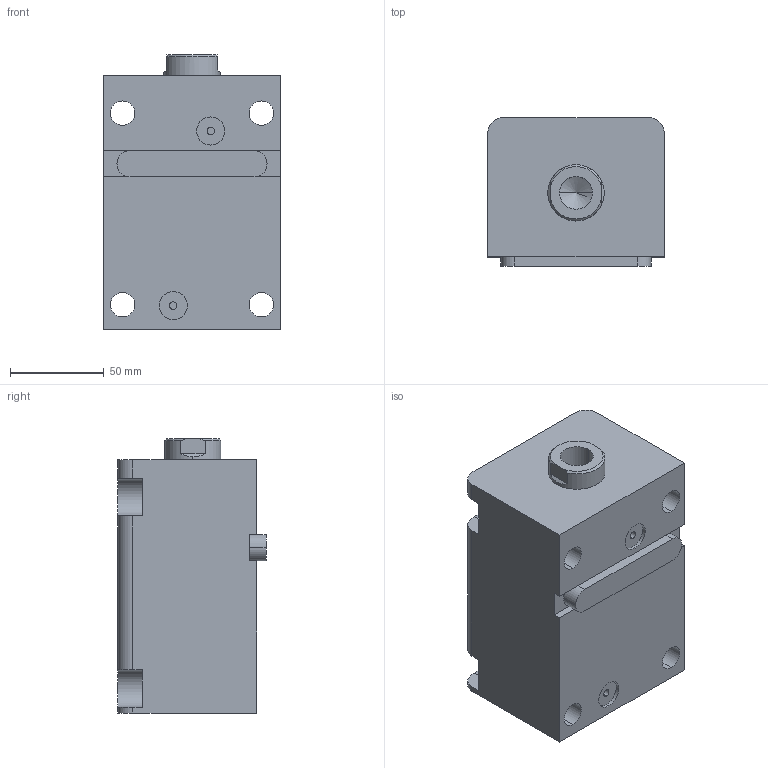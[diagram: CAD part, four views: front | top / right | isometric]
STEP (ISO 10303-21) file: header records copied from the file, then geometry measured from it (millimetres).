
FILE_DESCRIPTION (( 'STEP AP203' ), '1' );
FILE_NAME ('HTB-LAM50-75N.STEP', '2023-03-20T01:09:43', ( '微软用户' ), ( '微软中国' ), 'SwSTEP 2.0', 'SolidWorks 2012', '' );
FILE_SCHEMA (( 'CONFIG_CONTROL_DESIGN' ));
Length unit declared in the file: millimetre
Products named in the file (4): HTB-LAM50-75N; HTB-LWM50-瑩; HTB-LAM50-75N活塞杆; HTB-LAM50-75掛极
Assembly tree (3 placements, depth 2):
  HTB-LAM50-75N
    HTB-LAM50-75掛极
    HTB-LAM50-75N活塞杆
    HTB-LWM50-瑩
Bounding box: 94 x 79 x 146 mm (x, y, z)
Volume: 795673.7 mm3; surface area: 113366.1 mm2
Topology: 3 solids, 3 shells, 86 faces, 213 edges, 139 vertices
Faces by surface type: cylinder 39, plane 39, torus 4, cone 4
Entity records: 3001 total; most frequent: DIRECTION 475, CARTESIAN_POINT 470, ORIENTED_EDGE 422, EDGE_CURVE 211, AXIS2_PLACEMENT_3D 180, VERTEX_POINT 139, LINE 115, VECTOR 115
